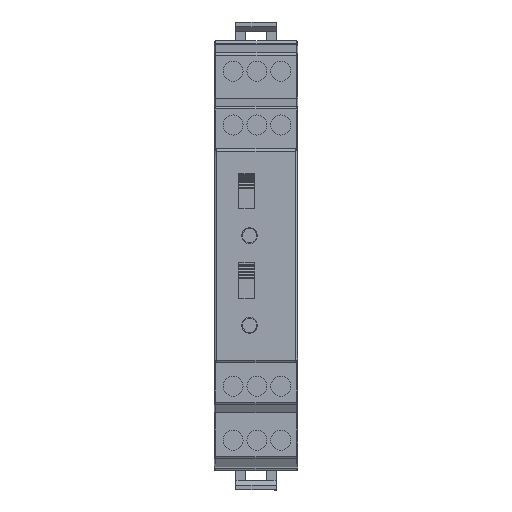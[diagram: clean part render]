
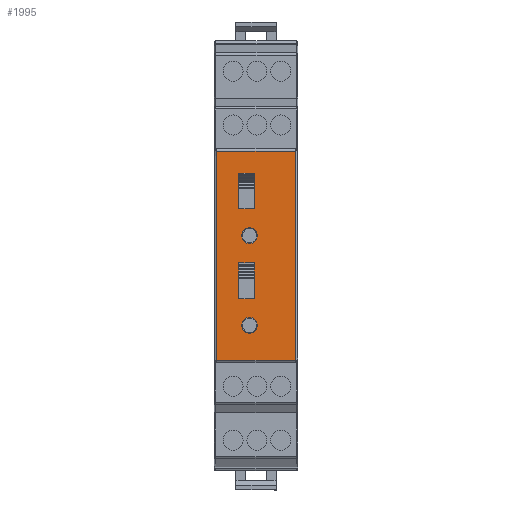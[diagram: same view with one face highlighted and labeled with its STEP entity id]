
A CAD part, top view. The second image highlights one B-rep face of the part: STEP entity #1995.
In plain terms, the highlighted planar face has unit normal (0, 0, 1).
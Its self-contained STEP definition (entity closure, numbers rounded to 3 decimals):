
#389 = CARTESIAN_POINT ( 'NONE',  ( 0.513, 27.115, 56.4 ) ) ;
#484 = CARTESIAN_POINT ( 'NONE',  ( 8.43, 58.775, 56.4 ) ) ;
#625 = CARTESIAN_POINT ( 'NONE',  ( 5.13, 39.975, 56.4 ) ) ;
#826 = LINE ( 'NONE', #11552, #32801 ) ;
#892 = DIRECTION ( 'NONE',  ( 0., 0., 1. ) ) ;
#977 = LINE ( 'NONE', #31846, #31680 ) ;
#1023 = LINE ( 'NONE', #9369, #8949 ) ;
#1149 = EDGE_LOOP ( 'NONE', ( #26628, #13913 ) ) ;
#1194 = DIRECTION ( 'NONE',  ( 1., 0., 0. ) ) ;
#1242 = ORIENTED_EDGE ( 'NONE', *, *, #24808, .F. ) ;
#1743 = VERTEX_POINT ( 'NONE', #32265 ) ;
#1985 = EDGE_CURVE ( 'NONE', #30663, #27853, #33428, .T. ) ;
#1995 = ADVANCED_FACE ( 'NONE', ( #17401, #9889, #20315, #15022, #10063 ), #28153, .T. ) ;
#2096 = EDGE_CURVE ( 'NONE', #31081, #2672, #10383, .T. ) ;
#2332 = AXIS2_PLACEMENT_3D ( 'NONE', #9934, #20363, #25645 ) ;
#2545 = DIRECTION ( 'NONE',  ( -1., 0., 0. ) ) ;
#2672 = VERTEX_POINT ( 'NONE', #24663 ) ;
#2752 = ORIENTED_EDGE ( 'NONE', *, *, #29758, .F. ) ;
#3020 = VERTEX_POINT ( 'NONE', #8577 ) ;
#3110 = EDGE_CURVE ( 'NONE', #15961, #1743, #27950, .T. ) ;
#3214 = DIRECTION ( 'NONE',  ( 0., 1., 0. ) ) ;
#3273 = EDGE_CURVE ( 'NONE', #15557, #23345, #31716, .T. ) ;
#3557 = VECTOR ( 'NONE', #22986, 1000. ) ;
#3835 = DIRECTION ( 'NONE',  ( 0., 0., 1. ) ) ;
#4389 = LINE ( 'NONE', #30310, #3557 ) ;
#4703 = ORIENTED_EDGE ( 'NONE', *, *, #3273, .F. ) ;
#6592 = EDGE_CURVE ( 'NONE', #27853, #9626, #16373, .T. ) ;
#7152 = DIRECTION ( 'NONE',  ( -1., 0., 0. ) ) ;
#7291 = VECTOR ( 'NONE', #29496, 1000. ) ;
#8577 = CARTESIAN_POINT ( 'NONE',  ( 16.987, 70.889, 56.4 ) ) ;
#8634 = VECTOR ( 'NONE', #19215, 1000. ) ;
#8883 = EDGE_LOOP ( 'NONE', ( #4703, #16424 ) ) ;
#8949 = VECTOR ( 'NONE', #9542, 1000. ) ;
#8959 = CARTESIAN_POINT ( 'NONE',  ( 7.393, 53.175, 56.4 ) ) ;
#9217 = EDGE_LOOP ( 'NONE', ( #2752, #18865, #31453, #17884 ) ) ;
#9369 = CARTESIAN_POINT ( 'NONE',  ( 5.13, 58.775, 56.4 ) ) ;
#9542 = DIRECTION ( 'NONE',  ( 0., -1., 0. ) ) ;
#9598 = DIRECTION ( 'NONE',  ( 0., 0., 1. ) ) ;
#9626 = VERTEX_POINT ( 'NONE', #20677 ) ;
#9769 = ORIENTED_EDGE ( 'NONE', *, *, #21537, .T. ) ;
#9889 = FACE_BOUND ( 'NONE', #9217, .T. ) ;
#9917 = EDGE_CURVE ( 'NONE', #25814, #10844, #1023, .T. ) ;
#9934 = CARTESIAN_POINT ( 'NONE',  ( 7.393, 53.175, 56.4 ) ) ;
#10063 = FACE_OUTER_BOUND ( 'NONE', #13326, .T. ) ;
#10383 = LINE ( 'NONE', #484, #11603 ) ;
#10844 = VERTEX_POINT ( 'NONE', #19105 ) ;
#10911 = VECTOR ( 'NONE', #1194, 1000. ) ;
#11552 = CARTESIAN_POINT ( 'NONE',  ( 16.987, 70.402, 56.4 ) ) ;
#11603 = VECTOR ( 'NONE', #3214, 1000. ) ;
#11805 = CIRCLE ( 'NONE', #30355, 1.65 ) ;
#11872 = CARTESIAN_POINT ( 'NONE',  ( 17.483, 27.115, 56.4 ) ) ;
#13326 = EDGE_LOOP ( 'NONE', ( #9769, #27135, #26960, #22015 ) ) ;
#13669 = DIRECTION ( 'NONE',  ( 1., 0., 0. ) ) ;
#13913 = ORIENTED_EDGE ( 'NONE', *, *, #14123, .F. ) ;
#13997 = EDGE_LOOP ( 'NONE', ( #1242, #14737, #17471, #18280 ) ) ;
#14100 = DIRECTION ( 'NONE',  ( 1., 0., 0. ) ) ;
#14123 = EDGE_CURVE ( 'NONE', #1743, #15961, #11805, .T. ) ;
#14151 = CARTESIAN_POINT ( 'NONE',  ( 8.43, 39.975, 56.4 ) ) ;
#14289 = DIRECTION ( 'NONE',  ( 0., 1., 0. ) ) ;
#14613 = LINE ( 'NONE', #11872, #8634 ) ;
#14737 = ORIENTED_EDGE ( 'NONE', *, *, #2096, .F. ) ;
#15011 = EDGE_CURVE ( 'NONE', #10844, #31081, #977, .T. ) ;
#15022 = FACE_BOUND ( 'NONE', #8883, .T. ) ;
#15050 = CARTESIAN_POINT ( 'NONE',  ( 0.513, 70.889, 56.4 ) ) ;
#15090 = VERTEX_POINT ( 'NONE', #19225 ) ;
#15311 = LINE ( 'NONE', #33559, #24642 ) ;
#15344 = EDGE_CURVE ( 'NONE', #26470, #3020, #826, .T. ) ;
#15497 = VECTOR ( 'NONE', #28320, 1000. ) ;
#15539 = EDGE_CURVE ( 'NONE', #9626, #15090, #15311, .T. ) ;
#15557 = VERTEX_POINT ( 'NONE', #26057 ) ;
#15801 = DIRECTION ( 'NONE',  ( 0., 1., 0. ) ) ;
#15835 = CARTESIAN_POINT ( 'NONE',  ( 8.43, 47.475, 56.4 ) ) ;
#15961 = VERTEX_POINT ( 'NONE', #20724 ) ;
#16373 = LINE ( 'NONE', #14151, #10911 ) ;
#16424 = ORIENTED_EDGE ( 'NONE', *, *, #31243, .F. ) ;
#17348 = CARTESIAN_POINT ( 'NONE',  ( 8.43, 66.275, 56.4 ) ) ;
#17359 = CARTESIAN_POINT ( 'NONE',  ( 8.43, 58.775, 56.4 ) ) ;
#17401 = FACE_BOUND ( 'NONE', #1149, .T. ) ;
#17471 = ORIENTED_EDGE ( 'NONE', *, *, #15011, .F. ) ;
#17619 = DIRECTION ( 'NONE',  ( 1., 0., 0. ) ) ;
#17744 = CARTESIAN_POINT ( 'NONE',  ( 5.13, 47.475, 56.4 ) ) ;
#17884 = ORIENTED_EDGE ( 'NONE', *, *, #1985, .F. ) ;
#18280 = ORIENTED_EDGE ( 'NONE', *, *, #9917, .F. ) ;
#18865 = ORIENTED_EDGE ( 'NONE', *, *, #15539, .F. ) ;
#19011 = VECTOR ( 'NONE', #2545, 1000. ) ;
#19105 = CARTESIAN_POINT ( 'NONE',  ( 5.13, 58.775, 56.4 ) ) ;
#19215 = DIRECTION ( 'NONE',  ( 1., 0., 0. ) ) ;
#19225 = CARTESIAN_POINT ( 'NONE',  ( 8.43, 47.475, 56.4 ) ) ;
#19372 = DIRECTION ( 'NONE',  ( 1., 0., 0. ) ) ;
#19529 = VECTOR ( 'NONE', #7152, 1000. ) ;
#20119 = LINE ( 'NONE', #30512, #19529 ) ;
#20141 = EDGE_CURVE ( 'NONE', #3020, #25720, #20119, .T. ) ;
#20315 = FACE_BOUND ( 'NONE', #13997, .T. ) ;
#20363 = DIRECTION ( 'NONE',  ( 0., 0., 1. ) ) ;
#20677 = CARTESIAN_POINT ( 'NONE',  ( 8.43, 39.975, 56.4 ) ) ;
#20724 = CARTESIAN_POINT ( 'NONE',  ( 9.043, 34.375, 56.4 ) ) ;
#20727 = AXIS2_PLACEMENT_3D ( 'NONE', #8959, #3835, #19372 ) ;
#21537 = EDGE_CURVE ( 'NONE', #25720, #25513, #4389, .T. ) ;
#21987 = CARTESIAN_POINT ( 'NONE',  ( 5.743, 53.175, 56.4 ) ) ;
#22015 = ORIENTED_EDGE ( 'NONE', *, *, #20141, .T. ) ;
#22042 = CARTESIAN_POINT ( 'NONE',  ( 7.393, 34.375, 56.4 ) ) ;
#22228 = CARTESIAN_POINT ( 'NONE',  ( 7.393, 34.375, 56.4 ) ) ;
#22590 = AXIS2_PLACEMENT_3D ( 'NONE', #27985, #25088, #23212 ) ;
#22701 = CARTESIAN_POINT ( 'NONE',  ( 5.13, 39.975, 56.4 ) ) ;
#22986 = DIRECTION ( 'NONE',  ( 0., -1., 0. ) ) ;
#23212 = DIRECTION ( 'NONE',  ( 1., 0., 0. ) ) ;
#23345 = VERTEX_POINT ( 'NONE', #21987 ) ;
#24024 = LINE ( 'NONE', #15835, #19011 ) ;
#24234 = CARTESIAN_POINT ( 'NONE',  ( 5.13, 66.275, 56.4 ) ) ;
#24642 = VECTOR ( 'NONE', #15801, 1000. ) ;
#24663 = CARTESIAN_POINT ( 'NONE',  ( 8.43, 66.275, 56.4 ) ) ;
#24808 = EDGE_CURVE ( 'NONE', #2672, #25814, #33195, .T. ) ;
#25088 = DIRECTION ( 'NONE',  ( 0., 0., 1. ) ) ;
#25513 = VERTEX_POINT ( 'NONE', #389 ) ;
#25645 = DIRECTION ( 'NONE',  ( 1., 0., 0. ) ) ;
#25720 = VERTEX_POINT ( 'NONE', #15050 ) ;
#25814 = VERTEX_POINT ( 'NONE', #24234 ) ;
#26057 = CARTESIAN_POINT ( 'NONE',  ( 9.043, 53.175, 56.4 ) ) ;
#26470 = VERTEX_POINT ( 'NONE', #32034 ) ;
#26628 = ORIENTED_EDGE ( 'NONE', *, *, #3110, .F. ) ;
#26960 = ORIENTED_EDGE ( 'NONE', *, *, #15344, .T. ) ;
#27135 = ORIENTED_EDGE ( 'NONE', *, *, #29048, .T. ) ;
#27250 = CIRCLE ( 'NONE', #20727, 1.65 ) ;
#27853 = VERTEX_POINT ( 'NONE', #625 ) ;
#27950 = CIRCLE ( 'NONE', #30656, 1.65 ) ;
#27985 = CARTESIAN_POINT ( 'NONE',  ( 16.5, 70.402, 56.4 ) ) ;
#28153 = PLANE ( 'NONE',  #22590 ) ;
#28320 = DIRECTION ( 'NONE',  ( 0., -1., 0. ) ) ;
#29048 = EDGE_CURVE ( 'NONE', #25513, #26470, #14613, .T. ) ;
#29496 = DIRECTION ( 'NONE',  ( -1., 0., 0. ) ) ;
#29758 = EDGE_CURVE ( 'NONE', #15090, #30663, #24024, .T. ) ;
#30310 = CARTESIAN_POINT ( 'NONE',  ( 0.513, 26.62, 56.4 ) ) ;
#30355 = AXIS2_PLACEMENT_3D ( 'NONE', #22042, #892, #13669 ) ;
#30512 = CARTESIAN_POINT ( 'NONE',  ( 0.017, 70.889, 56.4 ) ) ;
#30656 = AXIS2_PLACEMENT_3D ( 'NONE', #22228, #9598, #17619 ) ;
#30663 = VERTEX_POINT ( 'NONE', #17744 ) ;
#31081 = VERTEX_POINT ( 'NONE', #17359 ) ;
#31243 = EDGE_CURVE ( 'NONE', #23345, #15557, #27250, .T. ) ;
#31453 = ORIENTED_EDGE ( 'NONE', *, *, #6592, .F. ) ;
#31680 = VECTOR ( 'NONE', #14100, 1000. ) ;
#31716 = CIRCLE ( 'NONE', #2332, 1.65 ) ;
#31846 = CARTESIAN_POINT ( 'NONE',  ( 8.43, 58.775, 56.4 ) ) ;
#32034 = CARTESIAN_POINT ( 'NONE',  ( 16.987, 27.115, 56.4 ) ) ;
#32265 = CARTESIAN_POINT ( 'NONE',  ( 5.743, 34.375, 56.4 ) ) ;
#32801 = VECTOR ( 'NONE', #14289, 1000. ) ;
#33195 = LINE ( 'NONE', #17348, #7291 ) ;
#33428 = LINE ( 'NONE', #22701, #15497 ) ;
#33559 = CARTESIAN_POINT ( 'NONE',  ( 8.43, 39.975, 56.4 ) ) ;
